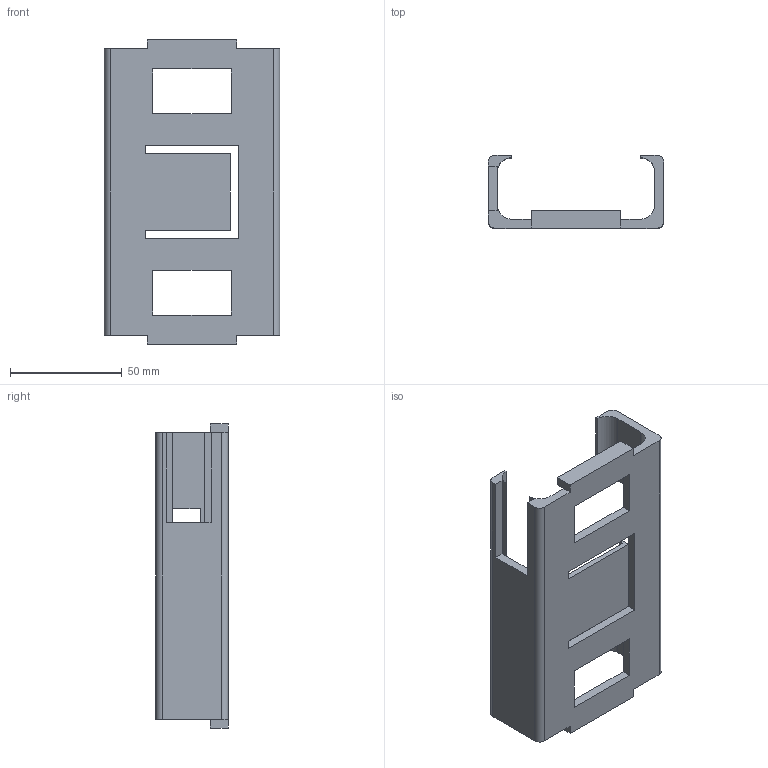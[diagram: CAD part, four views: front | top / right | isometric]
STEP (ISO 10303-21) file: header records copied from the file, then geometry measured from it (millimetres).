
FILE_DESCRIPTION(('FreeCAD Model'),'2;1');
FILE_NAME('Open CASCADE Shape Model','2026-06-01T13:35:43',('Author'),( ''),'Open CASCADE STEP processor 7.8','FreeCAD','Unknown');
FILE_SCHEMA(('AUTOMOTIVE_DESIGN { 1 0 10303 214 1 1 1 1 }'));
Length unit declared in the file: millimetre
Products named in the file (1): Body
Bounding box: 78.5 x 32.5 x 136 mm (x, y, z)
Volume: 59133.4 mm3; surface area: 34014.1 mm2
Topology: 1 solids, 1 shells, 64 faces, 180 edges, 118 vertices
Faces by surface type: plane 54, cylinder 10
Entity records: 2070 total; most frequent: CARTESIAN_POINT 363, ORIENTED_EDGE 360, DIRECTION 330, EDGE_CURVE 180, LINE 160, VECTOR 160, VERTEX_POINT 118, AXIS2_PLACEMENT_3D 85
